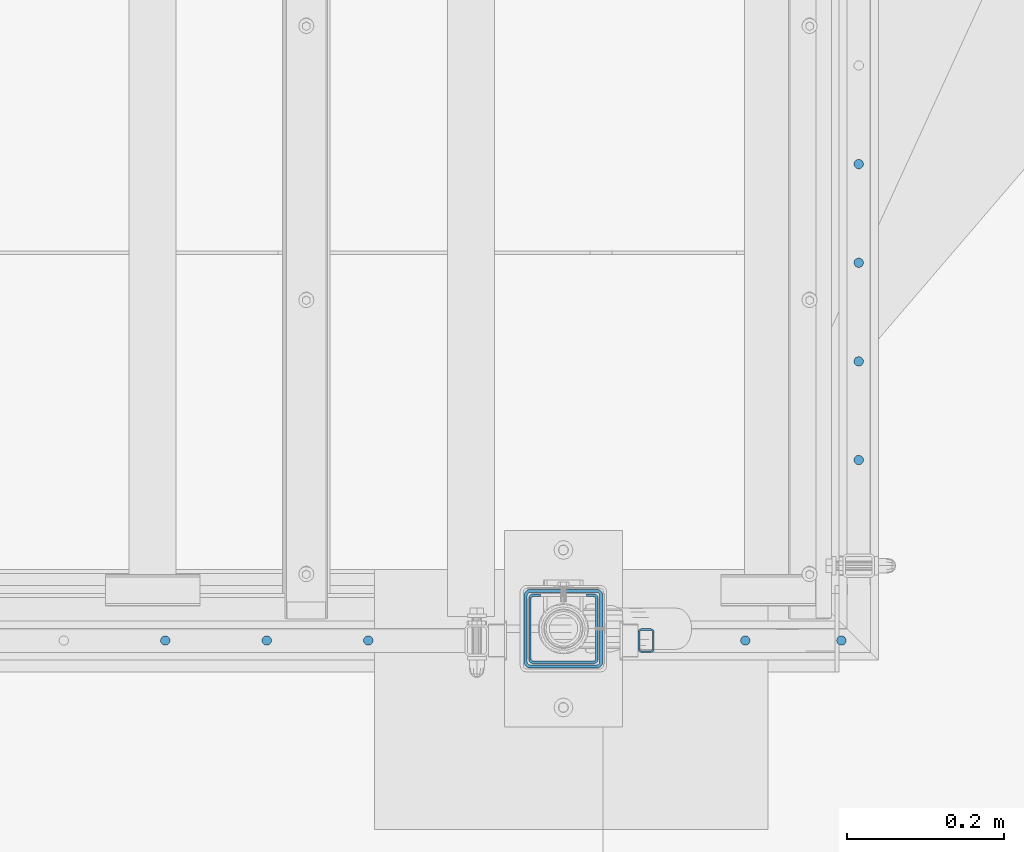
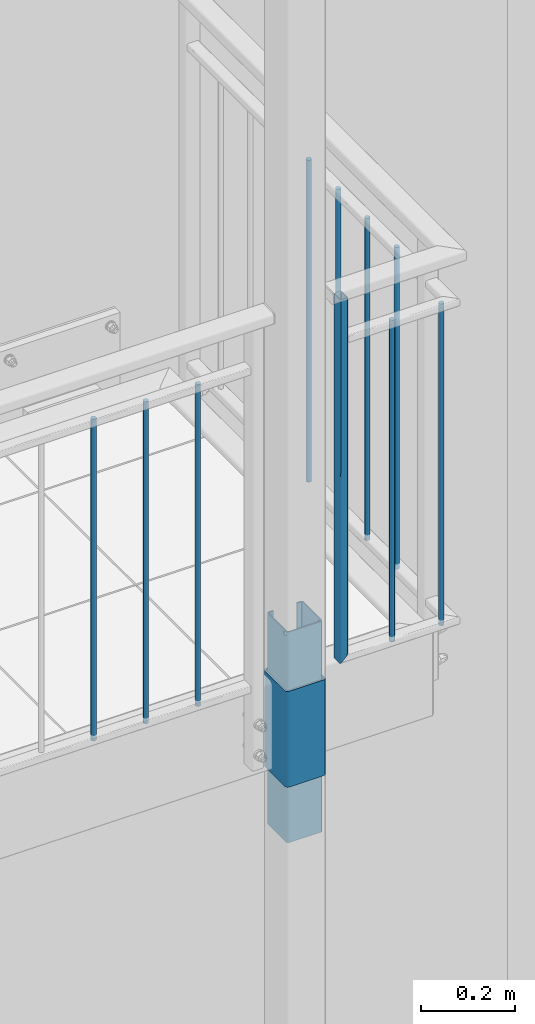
# One storey, part 27 of 162: 12 columns, 4 openings.
"""IFC2X3 building model written with IfcOpenShell, lengths in millimetres."""

from ifc_helpers import new_model, entity, si_unit, converted_unit, point, frame, frame_2d, origin, origin_with_axes, origin_2d, origin_2d_with_axis, place, context, project, spatial, circle_curve, line_curve, trimmed, segment, composite_curve, hollow_rectangle, circle, outline, extrude, clip, halfspace, material, element, save


model = new_model("IFC2X3")

# Units and contexts
model_context = context("Model", 3, precision=1e-09, world=origin_with_axes())
ifc_project = project(units=[si_unit("LENGTHUNIT", "METRE", prefix="MILLI"), si_unit("AREAUNIT", "SQUARE_METRE"), si_unit("VOLUMEUNIT", "CUBIC_METRE"), converted_unit("PLANEANGLEUNIT", "DEGREE", entity("IfcPlaneAngleMeasure", 0.01745329), si_unit("PLANEANGLEUNIT", "RADIAN"), dimensions=[0, 0, 0, 0, 0, 0, 0])], contexts=[model_context])

# Site, building, storey
site_placement = place(None, origin_with_axes())
site = spatial("IfcSite", under=ifc_project, at=site_placement, Name="Hermannstra?e 1a, 60318 Frankfurt", CompositionType="ELEMENT")
building_placement = place(site_placement, origin_with_axes())
building = spatial("IfcBuilding", under=site, at=building_placement, Name="Struktur 1", CompositionType="ELEMENT")
storey_placement = place(building_placement, origin_with_axes())
storey = spatial("IfcBuildingStorey", under=building, at=storey_placement, Name="Default Storey", CompositionType="ELEMENT", Elevation=0.0)

# Column, openings
ifc_material = material(Name="S235JR")
column_1_placement = place(None, frame((5473.30936482, 1530.609373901, 7940.0), z_axis=(0.0, 0.0, 1.0), x_axis=(0.0, 1.0, 0.0)))
column_1 = element("IfcColumn", 1, at=column_1_placement, inside=storey, material=ifc_material, Name="-", ObjectType="-", context=model_context, shape_type="SweptSolid", body=[
    extrude(outline(composite_curve([segment(trimmed(line_curve((44.0, 29.0), (0.0, 1.0), 10.0), [point((44.0, 29.0))], [point((44.0, 39.0))], True, "CARTESIAN"), True, "CONTINUOUS"), segment(trimmed(circle_curve(frame_2d((39.0, 39.0), x_axis=(1.0, 0.0)), 5.0), [point((44.0, 39.0))], [point((39.0, 44.0))], True, "CARTESIAN"), True, "CONTINUOUS"), segment(trimmed(line_curve((39.0, 44.0), (-1.0, 0.0), 78.0), [point((39.0, 44.0))], [point((-39.0, 44.0))], True, "CARTESIAN"), True, "CONTINUOUS"), segment(trimmed(circle_curve(frame_2d((-39.0, 39.0), x_axis=(1.0, 0.0)), 5.0), [point((-39.0, 44.0))], [point((-44.0, 39.0))], True, "CARTESIAN"), True, "CONTINUOUS"), segment(trimmed(line_curve((-44.0, 39.0), (0.0, -1.0), 78.0), [point((-44.0, 39.0))], [point((-44.0, -39.0))], True, "CARTESIAN"), True, "CONTINUOUS"), segment(trimmed(circle_curve(frame_2d((-39.0, -39.0), x_axis=(1.0, 0.0)), 5.0), [point((-44.0, -39.0))], [point((-39.0, -44.0))], True, "CARTESIAN"), True, "CONTINUOUS"), segment(trimmed(line_curve((-39.0, -44.0), (1.0, 0.0), 78.0), [point((-39.0, -44.0))], [point((39.0, -44.0))], True, "CARTESIAN"), True, "CONTINUOUS"), segment(trimmed(circle_curve(frame_2d((39.0, -39.0), x_axis=(1.0, 0.0)), 5.0), [point((39.0, -44.0))], [point((44.0, -39.0))], True, "CARTESIAN"), True, "CONTINUOUS"), segment(trimmed(line_curve((44.0, -39.0), (0.0, 1.0), 10.0), [point((44.0, -39.0))], [point((44.0, -29.0))], True, "CARTESIAN"), True, "CONTINUOUS"), segment(trimmed(line_curve((44.0, -29.0), (-1.0, 0.0), 3.0), [point((44.0, -29.0))], [point((41.0, -29.0))], True, "CARTESIAN"), True, "CONTINUOUS"), segment(trimmed(line_curve((41.0, -29.0), (0.0, -1.0), 10.0), [point((41.0, -29.0))], [point((41.0, -39.0))], True, "CARTESIAN"), True, "CONTINUOUS"), segment(trimmed(circle_curve(frame_2d((39.0, -39.0), x_axis=(-1.0, 0.0)), 2.0), [point((41.0, -39.0))], [point((39.0, -41.0))], False, "CARTESIAN"), True, "CONTINUOUS"), segment(trimmed(line_curve((39.0, -41.0), (-1.0, 0.0), 78.0), [point((39.0, -41.0))], [point((-39.0, -41.0))], True, "CARTESIAN"), True, "CONTINUOUS"), segment(trimmed(circle_curve(frame_2d((-39.0, -39.0), x_axis=(-1.0, 0.0)), 2.0), [point((-39.0, -41.0))], [point((-41.0, -39.0))], False, "CARTESIAN"), True, "CONTINUOUS"), segment(trimmed(line_curve((-41.0, -39.0), (0.0, 1.0), 78.0), [point((-41.0, -39.0))], [point((-41.0, 39.0))], True, "CARTESIAN"), True, "CONTINUOUS"), segment(trimmed(circle_curve(frame_2d((-39.0, 39.0), x_axis=(-1.0, 0.0)), 2.0), [point((-41.0, 39.0))], [point((-39.0, 41.0))], False, "CARTESIAN"), True, "CONTINUOUS"), segment(trimmed(line_curve((-39.0, 41.0), (1.0, 0.0), 78.0), [point((-39.0, 41.0))], [point((39.0, 41.0))], True, "CARTESIAN"), True, "CONTINUOUS"), segment(trimmed(circle_curve(frame_2d((39.0, 39.0), x_axis=(-1.0, 0.0)), 2.0), [point((39.0, 41.0))], [point((41.0, 39.0))], False, "CARTESIAN"), True, "CONTINUOUS"), segment(trimmed(line_curve((41.0, 39.0), (0.0, -1.0), 10.0), [point((41.0, 39.0))], [point((41.0, 29.0))], True, "CARTESIAN"), True, "CONTINUOUS"), segment(trimmed(line_curve((41.0, 29.0), (1.0, 0.0), 3.0), [point((41.0, 29.0))], [point((44.0, 29.0))], True, "CARTESIAN"), True, "CONTINUOUS")], self_intersect=False)), origin(), (0.0, 0.0, -1.0), 550.0),
])
opening_1_placement = place(column_1_placement, frame((-38.001, 40.5, -9.0), z_axis=(0.0, -1.0, 0.0), x_axis=(1.0, 0.0, 0.0)))
element("IfcOpeningElement", 2, at=opening_1_placement, cuts=column_1, ObjectType="Opening", context=model_context, shape_type="SweptSolid", body=[
    extrude(circle(Radius=5.001, at=frame_2d((5.001, 0.0), x_axis=(1.0, 0.0))), origin(), (0.0, 0.0, -1.0), 4.0),
])
opening_2_placement = place(column_1_placement, frame((0.0, -40.5, -160.0), z_axis=(0.0, -1.0, 0.0), x_axis=(1.0, 0.0, 0.0)))
element("IfcOpeningElement", 3, at=opening_2_placement, cuts=column_1, ObjectType="Opening", context=model_context, shape_type="SweptSolid", body=[
    extrude(circle(Radius=5.001, at=frame_2d((-33.0, 151.0), x_axis=(1.0, 0.0))), origin(), (0.0, 0.0, 1.0), 4.0),
])

# Column, opening
column_2_placement = place(None, frame((5473.30936482, 1530.609373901, 7540.0), z_axis=(0.0, 0.0, 1.0), x_axis=(0.0, -1.0, 0.0)))
column_2 = element("IfcColumn", 4, at=column_2_placement, inside=storey, material=ifc_material, Name="-", ObjectType="-", context=model_context, shape_type="SweptSolid", body=[
    extrude(hollow_rectangle(XDim=100.0, YDim=100.0, WallThickness=4.0, InnerFilletRadius=4.0, OuterFilletRadius=8.0, at=origin_2d()), origin(), (0.0, 0.0, 1.0), 250.0),
])
opening_3_placement = place(column_2_placement, frame((20.0, -26.002684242, 15.999), z_axis=(1.0, 0.0, 0.0), x_axis=(0.0, 0.707106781, -0.707106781)))
element("IfcOpeningElement", 5, at=opening_3_placement, cuts=column_2, ObjectType="Opening", context=model_context, shape_type="SweptSolid", body=[
    extrude(outline(composite_curve([segment(trimmed(circle_curve(frame_2d((4.242640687, 4.242640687), x_axis=(1.0, 0.0)), 6.0), [point((0.0, 0.0))], [point((8.485281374, 0.0))], True, "CARTESIAN"), True, "CONTINUOUS"), segment(trimmed(line_curve((8.485281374, 0.0), (0.707106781, 0.707106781), 40.002), [point((8.485281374, 0.0))], [point((36.770966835, 28.285685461))], True, "CARTESIAN"), True, "CONTINUOUS"), segment(trimmed(circle_curve(frame_2d((32.528326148, 32.528326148), x_axis=(1.0, 0.0)), 6.0), [point((36.770966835, 28.285685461))], [point((36.770966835, 36.770966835))], True, "CARTESIAN"), True, "CONTINUOUS"), segment(trimmed(line_curve((36.770966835, 36.770966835), (-0.707106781, 0.707106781), 38.002), [point((36.770966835, 36.770966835))], [point((9.899494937, 63.642438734))], True, "CARTESIAN"), True, "CONTINUOUS"), segment(trimmed(circle_curve(frame_2d((5.656854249, 59.399798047), x_axis=(1.0, 0.0)), 6.0), [point((9.899494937, 63.642438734))], [point((1.414213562, 63.642438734))], True, "CARTESIAN"), True, "CONTINUOUS"), segment(trimmed(line_curve((1.414213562, 63.642438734), (-0.707106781, -0.707106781), 40.002), [point((1.414213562, 63.642438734))], [point((-26.871471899, 35.356753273))], True, "CARTESIAN"), True, "CONTINUOUS"), segment(trimmed(circle_curve(frame_2d((-22.628831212, 31.114112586), x_axis=(1.0, 0.0)), 6.0), [point((-26.871471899, 35.356753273))], [point((-26.871471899, 26.871471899))], True, "CARTESIAN"), True, "CONTINUOUS"), segment(trimmed(line_curve((-26.871471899, 26.871471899), (0.707106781, -0.707106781), 38.002), [point((-26.871471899, 26.871471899))], [point((0.0, 0.0))], True, "CARTESIAN"), True, "CONTINUOUS")], self_intersect=False)), origin(), (0.0, 0.0, -1.0), 170.1),
])

# Columns
for number, where, z_axis, x_axis in (
    (6, (5826.30936482, 1515.609373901, 7805.0), (0.0, 0.0, 1.0), (-1.0, 0.0, 0.0)),
    (7, (5704.30936482, 1515.609373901, 7805.0), (0.0, 0.0, 1.0), (-1.0, 0.0, 0.0)),
):
    element("IfcColumn", number, at=place(None, frame(where, z_axis=z_axis, x_axis=x_axis)), inside=storey, material=ifc_material, Name="-", ObjectType="-", context=model_context, shape_type="SweptSolid", body=[
        extrude(circle(Radius=6.0, at=origin_2d()), origin(), (0.0, 0.0, 1.0), 840.0),
    ])

# Column, opening
column_3_placement = place(None, frame((5578.30936482, 1515.609373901, 8750.0), z_axis=(0.0, 0.0, -1.0), x_axis=(1.0, 0.0, 0.0)))
column_3 = element("IfcColumn", 8, at=column_3_placement, inside=storey, material=ifc_material, Name="-", ObjectType="-", context=model_context, shape_type="Clipping", body=[
    clip(extrude(hollow_rectangle(XDim=20.0, YDim=30.0, WallThickness=2.0, InnerFilletRadius=2.0, OuterFilletRadius=4.0, at=origin_2d()), origin(), (0.0, 0.0, 1.0), 965.495097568), halfspace(frame((-6694.155389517, 1515.609373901, 7634.153975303), z_axis=(-0.707106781, 0.0, -0.707106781), x_axis=(0.0, 1.0, 0.0)), True)),
])
opening_4_placement = place(column_3_placement, frame((7.5, 0.0, 110.0), z_axis=(1.0, 0.0, 0.0), x_axis=(0.0, -1.0, 0.0)))
element("IfcOpeningElement", 9, at=opening_4_placement, cuts=column_3, ObjectType="Opening", context=model_context, shape_type="SweptSolid", body=[
    extrude(circle(Radius=5.001, at=origin_2d_with_axis()), origin(), (0.0, 0.0, 1.0), 3.0),
])

# Columns
for number, where, z_axis, x_axis in (
    (10, (4967.737936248, 1515.609373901, 7805.0), (0.0, 0.0, -1.0), (1.0, 0.0, 0.0)),
    (11, (5096.595079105, 1515.609373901, 7805.0), (0.0, 0.0, -1.0), (1.0, 0.0, 0.0)),
    (12, (5225.452221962, 1515.609373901, 7805.0), (0.0, 0.0, -1.0), (1.0, 0.0, 0.0)),
    (13, (5848.30936482, 2120.609373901, 7805.0), (0.0, 0.0, -1.0), (0.0, -1.0, 0.0)),
    (14, (5848.30936482, 1995.359373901, 7805.0), (0.0, 0.0, -1.0), (0.0, -1.0, 0.0)),
    (15, (5848.30936482, 1870.109373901, 7805.0), (0.0, 0.0, -1.0), (0.0, -1.0, 0.0)),
    (16, (5848.30936482, 1744.859373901, 7805.0), (0.0, 0.0, -1.0), (0.0, -1.0, 0.0)),
):
    element("IfcColumn", number, at=place(None, frame(where, z_axis=z_axis, x_axis=x_axis)), inside=storey, material=ifc_material, Name="-", ObjectType="-", context=model_context, shape_type="SweptSolid", body=[
        extrude(circle(Radius=6.0, at=origin_2d()), origin(), (0.0, 0.0, -1.0), 840.0),
    ])

save(model, "model.ifc")
